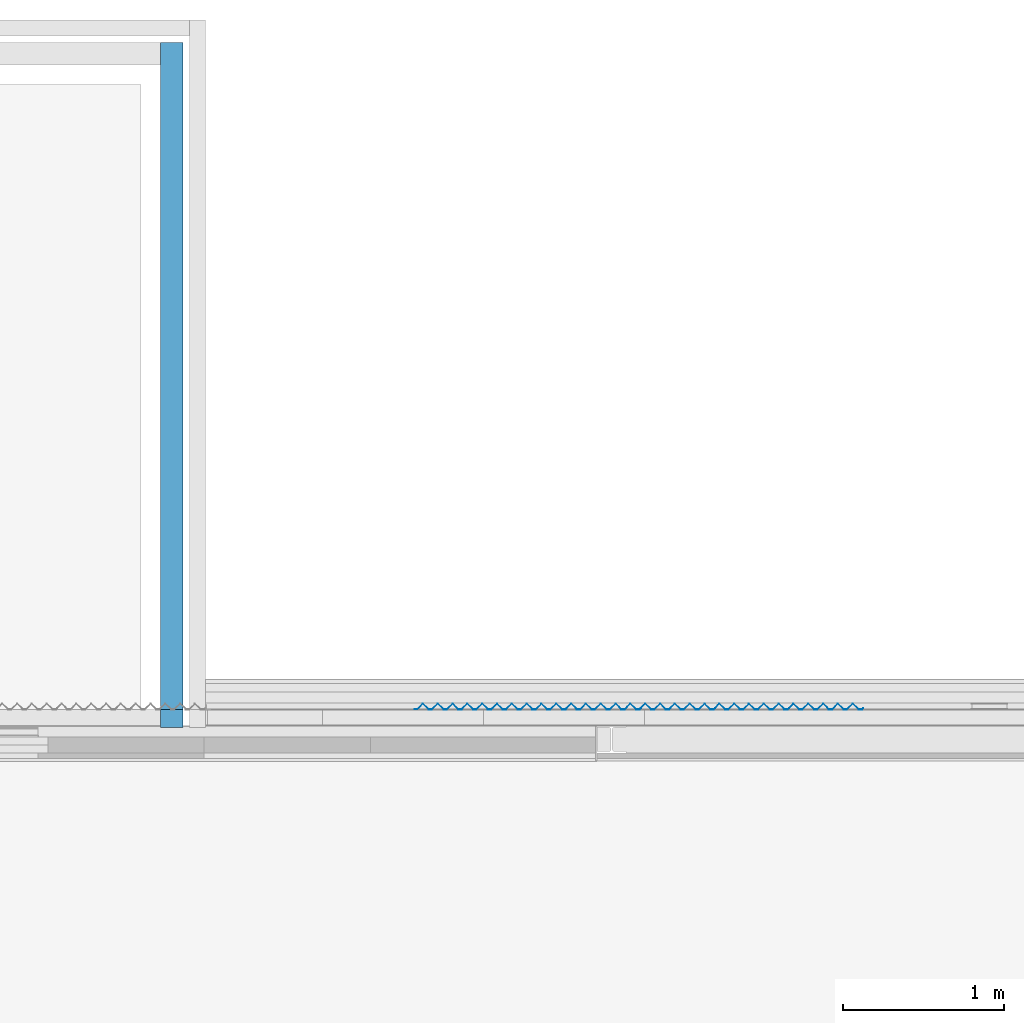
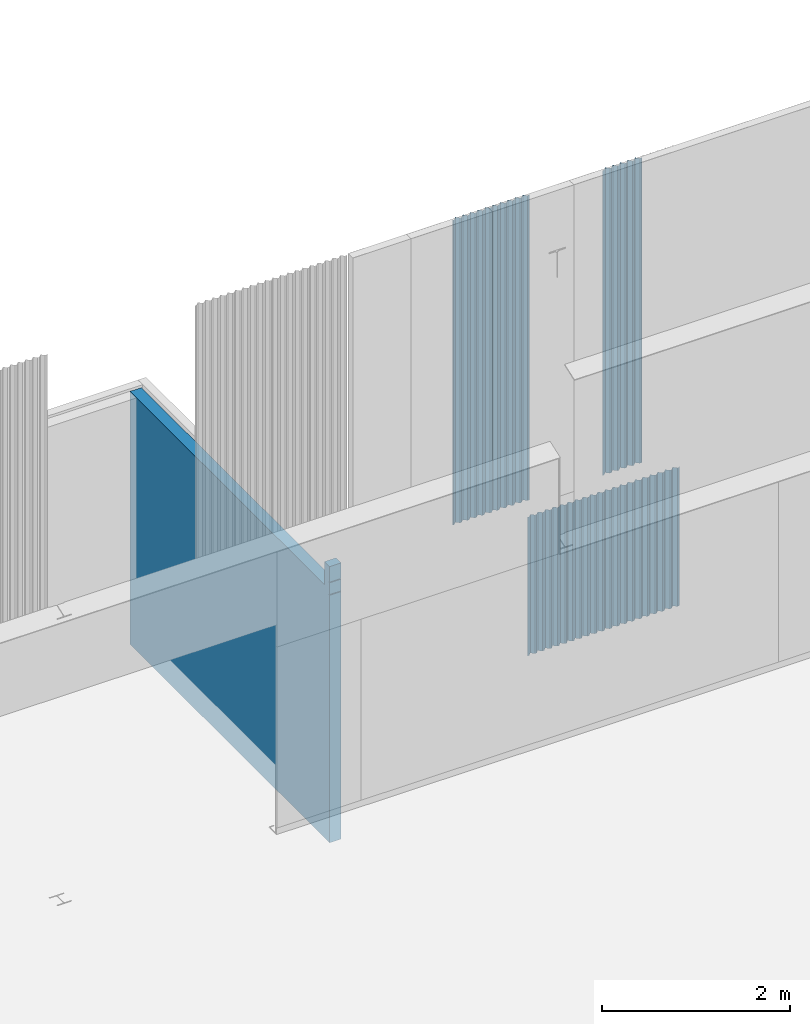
# One storey, part 97 of 338: 8 building element parts, 5 elements without a shape of their own.
"""IFC2X3 building model written with IfcOpenShell, lengths in millimetres."""

from ifc_helpers import new_model, entity, si_unit, converted_unit, derived_unit, money_unit, direction, frame, origin_with_axes, place, context, subcontext, project, spatial, faceted_brep, material, type_object, element, aggregate, save


model = new_model("IFC2X3")

# Units and contexts
model_context = context("Model", 3, precision=0.01, world=origin_with_axes(), true_north=direction((0.0, 1.0)))
plan_context = context("Plan", 3, precision=0.01, world=origin_with_axes(), true_north=direction((0.0, 1.0)))
body_context = subcontext(model_context, "Body", "Model", "MODEL_VIEW")
ifc_project = project(units=[si_unit("LENGTHUNIT", "METRE", prefix="MILLI"), si_unit("AREAUNIT", "SQUARE_METRE"), si_unit("VOLUMEUNIT", "CUBIC_METRE"), converted_unit("PLANEANGLEUNIT", "DEGREE", entity("IfcPlaneAngleMeasure", 0.0174532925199), si_unit("PLANEANGLEUNIT", "RADIAN"), dimensions=[0, 0, 0, 0, 0, 0, 0]), money_unit("EUR"), converted_unit("TIMEUNIT", "Year", entity("IfcTimeMeasure", 31556926.0), si_unit("TIMEUNIT", "SECOND"), dimensions=[0, 0, 1, 0, 0, 0, 0]), si_unit("MASSUNIT", "GRAM", prefix="KILO"), si_unit("THERMODYNAMICTEMPERATUREUNIT", "DEGREE_CELSIUS"), si_unit("LUMINOUSINTENSITYUNIT", "LUMEN"), si_unit("ENERGYUNIT", "JOULE", prefix="MEGA"), derived_unit("THERMALCONDUCTANCEUNIT", [(si_unit("POWERUNIT", "WATT"), 1), (si_unit("LENGTHUNIT", "METRE"), -1), (si_unit("THERMODYNAMICTEMPERATUREUNIT", "KELVIN"), -1)]), derived_unit("SPECIFICHEATCAPACITYUNIT", [(si_unit("ENERGYUNIT", "JOULE"), 1), (si_unit("MASSUNIT", "GRAM", prefix="KILO"), -1), (si_unit("THERMODYNAMICTEMPERATUREUNIT", "KELVIN"), -1)]), derived_unit("MASSDENSITYUNIT", [(si_unit("MASSUNIT", "GRAM", prefix="KILO"), 1), (si_unit("VOLUMEUNIT", "CUBIC_METRE"), -1)])], contexts=[model_context, plan_context])

# Site, building, storey
site_placement = place(None, origin_with_axes())
site = spatial("IfcSite", under=ifc_project, at=site_placement, Name="Fortuinstraat Woensdrecht", CompositionType="ELEMENT")
building_placement = place(site_placement, origin_with_axes())
building = spatial("IfcBuilding", under=site, at=building_placement, Name="IKC Fortuna", CompositionType="ELEMENT")
storey_placement = place(building_placement, origin_with_axes())
storey = spatial("IfcBuildingStorey", under=building, at=storey_placement, Name="00 begane grond", CompositionType="ELEMENT", Elevation=0.0)

# Wall, building element part
wall_type = type_object("IfcWallType", Name="21 MW accent 280", PredefinedType="NOTDEFINED")
wall_placement = place(storey_placement, frame((44333.4279792, 39596.2966283, -485.0), z_axis=(0.0, 0.0, 1.0), x_axis=(-2.24888890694e-07, -1.0, 0.0)))
wall = element("IfcWall", 1, at=wall_placement, inside=storey, type_object=wall_type, Name="21_Wand_Baksteen")
ifc_material_1 = material(Name="ALG - ISOLATIE")
building_element_part_1_placement = place(wall_placement, origin_with_axes())
building_element_part_1 = element("IfcBuildingElementPart", 2, at=building_element_part_1_placement, material=ifc_material_1, Name="ALG - ISOLATIE", context=body_context, shape_type="Brep", body=[
    faceted_brep([(4090.99996852, 140.000899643, 3375.5), (4109.99995952, 140.0, 3375.5), (4109.99995952, 140.0, 3223.5), (4090.99996852, 140.000899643, 3223.5), (4090.99996852, 140.000899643, 3214.0), (4109.99995952, 140.0, 3214.0), (4109.99995952, 140.0, 0.0), (-140.000031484, 140.0, 0.0), (-140.000030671, 139.999967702, 3285.0), (3999.99996852, 140.000899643, 3285.0), (3999.99996852, 140.000899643, 3585.00000254), (4109.99995952, 140.0, 3585.0), (4109.99995952, 140.0, 3385.0), (4090.99996852, 140.000899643, 3385.0), (4091.0, 0.000898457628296, 3375.5), (4109.99995952, 0.0, 3375.5), (4109.99995952, 0.0, 3223.5), (4091.0, 0.000898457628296, 3223.5), (4091.0, 0.000898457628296, 3214.0), (4109.99995952, 0.0, 3214.0), (4109.99995952, 0.0, 0.0), (-140.0, 0.0, 0.0), (-139.999999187, -3.25823776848e-05, 3285.0), (4000.0, 0.000898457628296, 3285.0), (4000.0, 0.000898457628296, 3584.99999807), (4109.99995952, 0.0, 3585.0), (4109.99995952, 0.0, 3385.0), (4091.0, 0.000898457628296, 3385.0)], [[[0, 1, 2, 3, 4, 5, 6, 7, 8, 9, 10, 11, 12, 13]], [[1, 0, 14, 15]], [[1, 15, 16, 2]], [[3, 2, 16, 17]], [[4, 3, 17, 18]], [[5, 4, 18, 19]], [[5, 19, 20, 6]], [[20, 21, 7, 6]], [[22, 8, 7, 21]], [[23, 9, 8, 22]], [[23, 24, 10, 9]], [[11, 10, 24, 25]], [[26, 12, 11, 25]], [[13, 12, 26, 27]], [[0, 13, 27, 14]], [[27, 26, 25, 24, 23, 22, 21, 20, 19, 18, 17, 16, 15, 14]]]),
])
aggregate(wall, [building_element_part_1])

# Proxy, building element parts
building_element_proxy_type = type_object("IfcBuildingElementProxyType", Name="21 Sandwich custom pyramid 946 x 37", PredefinedType="NOTDEFINED")
proxy_1_placement = place(storey_placement, frame((47749.6588228, 35596.2971073, 1000.0), z_axis=(0.0, 0.0, 1.0), x_axis=(1.0, 0.0, 0.0)))
proxy_1 = element("IfcBuildingElementProxy", 3, at=proxy_1_placement, inside=storey, type_object=building_element_proxy_type, Name="41_Generieke bekleding & afwerking buiten_sandwich custom pyramid")
ifc_material_2 = material(Name="Metaal - Aluminium")
building_element_part_2_placement = place(proxy_1_placement, origin_with_axes())
building_element_part_2 = element("IfcBuildingElementPart", 4, at=building_element_part_2_placement, material=ifc_material_2, Name="Metaal - Aluminium", context=body_context, shape_type="Brep", body=[
    faceted_brep([(0.0, 2.39999686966, 0.0), (0.0, 1.20000548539, 0.0), (0.0, 1.20000548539, 1800.85690838), (0.0, 2.39999686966, 1800.85690838), (16.7470988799, 2.39999686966, 0.0), (52.0000026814, 36.6736482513, 0.0), (88.487191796, 1.20000548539, 0.0), (107.51282048, 1.20000548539, 0.0), (143.999995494, 36.6736482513, 0.0), (180.487184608, 1.20000548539, 0.0), (199.512813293, 1.20000548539, 0.0), (236.000002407, 36.6736482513, 0.0), (272.487191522, 1.20000548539, 0.0), (291.512820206, 1.20000548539, 0.0), (327.99999522, 36.6736482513, 0.0), (364.487184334, 1.20000548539, 0.0), (383.512813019, 1.20000548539, 0.0), (420.000002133, 36.6736482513, 0.0), (456.487191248, 1.20000548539, 0.0), (460.000006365, 1.20000548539, 0.0), (477.23428491, 1.20000548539, 0.0), (485.472879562, 9.20975302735, 0.0), (486.309372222, 8.34935896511, 0.0), (477.721464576, 0.0, 0.0), (455.999997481, 0.0, 0.0), (420.000002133, 35.0000001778, 0.0), (384.000006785, 0.0, 0.0), (364.000004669, 0.0, 0.0), (327.99999522, 35.0000001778, 0.0), (291.999999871, 0.0, 0.0), (271.999997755, 0.0, 0.0), (236.000002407, 35.0000001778, 0.0), (199.999992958, 0.0, 0.0), (180.000004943, 0.0, 0.0), (143.999995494, 35.0000001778, 0.0), (108.000000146, 0.0, 0.0), (87.9999980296, 0.0, 0.0), (52.0000026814, 35.0000001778, 0.0), (17.2342926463, 1.20000548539, 0.0), (17.2342926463, 1.20000548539, 1800.85690838), (52.0000026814, 35.0000001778, 1800.85690838), (87.9999980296, 0.0, 1800.85690838), (108.000000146, 0.0, 1800.85690838), (143.999995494, 35.0000001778, 1800.85690838), (180.000004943, 0.0, 1800.85690838), (199.999992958, 0.0, 1800.85690838), (236.000002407, 35.0000001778, 1800.85690838), (271.999997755, 0.0, 1800.85690838), (291.999999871, 0.0, 1800.85690838), (327.99999522, 35.0000001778, 1800.85690838), (364.000004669, 0.0, 1800.85690838), (384.000006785, 0.0, 1800.85690838), (420.000002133, 35.0000001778, 1800.85690838), (455.999997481, 0.0, 1800.85690838), (477.721464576, 0.0, 1800.85690838), (486.309372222, 8.34935896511, 1800.85690838), (485.472879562, 9.20975302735, 1800.85690838), (477.23428491, 1.20000548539, 1800.85690838), (460.000006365, 1.20000548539, 1800.85690838), (456.487191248, 1.20000548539, 1800.85690838), (420.000002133, 36.6736482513, 1800.85690838), (383.512813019, 1.20000548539, 1800.85690838), (364.487184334, 1.20000548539, 1800.85690838), (327.99999522, 36.6736482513, 1800.85690838), (291.512820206, 1.20000548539, 1800.85690838), (272.487191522, 1.20000548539, 1800.85690838), (236.000002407, 36.6736482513, 1800.85690838), (199.512813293, 1.20000548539, 1800.85690838), (180.487184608, 1.20000548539, 1800.85690838), (143.999995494, 36.6736482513, 1800.85690838), (107.51282048, 1.20000548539, 1800.85690838), (88.487191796, 1.20000548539, 1800.85690838), (52.0000026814, 36.6736482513, 1800.85690838), (16.7470988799, 2.39999686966, 1800.85690838)], [[[0, 1, 2, 3]], [[0, 4, 5, 6, 7, 8, 9, 10, 11, 12, 13, 14, 15, 16, 17, 18, 19, 20, 21, 22, 23, 24, 25, 26, 27, 28, 29, 30, 31, 32, 33, 34, 35, 36, 37, 38, 1]], [[1, 38, 39, 2]], [[3, 2, 39, 40, 41, 42, 43, 44, 45, 46, 47, 48, 49, 50, 51, 52, 53, 54, 55, 56, 57, 58, 59, 60, 61, 62, 63, 64, 65, 66, 67, 68, 69, 70, 71, 72, 73]], [[4, 0, 3, 73]], [[5, 4, 73, 72]], [[6, 5, 72, 71]], [[7, 6, 71, 70]], [[8, 7, 70, 69]], [[9, 8, 69, 68]], [[10, 9, 68, 67]], [[11, 10, 67, 66]], [[12, 11, 66, 65]], [[13, 12, 65, 64]], [[14, 13, 64, 63]], [[15, 14, 63, 62]], [[16, 15, 62, 61]], [[17, 16, 61, 60]], [[18, 17, 60, 59]], [[19, 18, 59, 58]], [[20, 19, 58, 57]], [[21, 20, 57, 56]], [[22, 21, 56, 55]], [[23, 22, 55, 54]], [[24, 23, 54, 53]], [[25, 24, 53, 52]], [[26, 25, 52, 51]], [[27, 26, 51, 50]], [[28, 27, 50, 49]], [[29, 28, 49, 48]], [[30, 29, 48, 47]], [[31, 30, 47, 46]], [[32, 31, 46, 45]], [[33, 32, 45, 44]], [[34, 33, 44, 43]], [[35, 34, 43, 42]], [[36, 35, 42, 41]], [[37, 36, 41, 40]], [[38, 37, 40, 39]]]),
])
building_element_part_3_placement = place(proxy_1_placement, origin_with_axes())
building_element_part_3 = element("IfcBuildingElementPart", 5, at=building_element_part_3_placement, material=ifc_material_2, Name="Metaal - Aluminium", context=body_context, shape_type="Brep", body=[
    faceted_brep([(460.0, 1.2, 0.0), (477.234285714, 1.2, 0.0), (477.234285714, 1.2, 1800.85690838), (460.0, 1.2, 1800.85690838), (460.0, 2.4, 0.0), (476.747100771, 2.4, 0.0), (512.0, 36.6736520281, 0.0), (548.487184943, 1.2, 0.0), (567.512815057, 1.2, 0.0), (604.0, 36.6736520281, 0.0), (640.487184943, 1.2, 0.0), (659.512815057, 1.2, 0.0), (696.0, 36.6736520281, 0.0), (732.487184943, 1.2, 0.0), (751.512815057, 1.2, 0.0), (788.0, 36.6736520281, 0.0), (824.487184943, 1.2, 0.0), (843.512815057, 1.2, 0.0), (880.0, 36.6736520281, 0.0), (916.487184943, 1.2, 0.0), (937.234285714, 1.2, 0.0), (945.472884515, 9.20974883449, 0.0), (946.309378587, 8.34935493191, 0.0), (937.721470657, 0.0, 0.0), (916.0, 0.0, 0.0), (880.0, 35.0, 0.0), (844.0, 0.0, 0.0), (824.0, 0.0, 0.0), (788.0, 35.0, 0.0), (752.0, 0.0, 0.0), (732.0, 0.0, 0.0), (696.0, 35.0, 0.0), (660.0, 0.0, 0.0), (640.0, 0.0, 0.0), (604.0, 35.0, 0.0), (568.0, 0.0, 0.0), (548.0, 0.0, 0.0), (512.0, 35.0, 0.0), (485.472879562, 9.20975302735, 0.0), (485.472879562, 9.20975302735, 1800.85690838), (512.0, 35.0, 1800.85690838), (548.0, 0.0, 1800.85690838), (568.0, 0.0, 1800.85690838), (604.0, 35.0, 1800.85690838), (640.0, 0.0, 1800.85690838), (660.0, 0.0, 1800.85690838), (696.0, 35.0, 1800.85690838), (732.0, 0.0, 1800.85690838), (752.0, 0.0, 1800.85690838), (788.0, 35.0, 1800.85690838), (824.0, 0.0, 1800.85690838), (844.0, 0.0, 1800.85690838), (880.0, 35.0, 1800.85690838), (916.0, 0.0, 1800.85690838), (937.721470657, 0.0, 1800.85690838), (946.309378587, 8.34935493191, 1800.85690838), (945.472884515, 9.20974883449, 1800.85690838), (937.234285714, 1.2, 1800.85690838), (916.487184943, 1.2, 1800.85690838), (880.0, 36.6736520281, 1800.85690838), (843.512815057, 1.2, 1800.85690838), (824.487184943, 1.2, 1800.85690838), (788.0, 36.6736520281, 1800.85690838), (751.512815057, 1.2, 1800.85690838), (732.487184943, 1.2, 1800.85690838), (696.0, 36.6736520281, 1800.85690838), (659.512815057, 1.2, 1800.85690838), (640.487184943, 1.2, 1800.85690838), (604.0, 36.6736520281, 1800.85690838), (567.512815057, 1.2, 1800.85690838), (548.487184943, 1.2, 1800.85690838), (512.0, 36.6736520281, 1800.85690838), (476.747100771, 2.4, 1800.85690838), (460.0, 2.4, 1800.85690838)], [[[0, 1, 2, 3]], [[0, 4, 5, 6, 7, 8, 9, 10, 11, 12, 13, 14, 15, 16, 17, 18, 19, 20, 21, 22, 23, 24, 25, 26, 27, 28, 29, 30, 31, 32, 33, 34, 35, 36, 37, 38, 1]], [[1, 38, 39, 2]], [[3, 2, 39, 40, 41, 42, 43, 44, 45, 46, 47, 48, 49, 50, 51, 52, 53, 54, 55, 56, 57, 58, 59, 60, 61, 62, 63, 64, 65, 66, 67, 68, 69, 70, 71, 72, 73]], [[4, 0, 3, 73]], [[5, 4, 73, 72]], [[6, 5, 72, 71]], [[7, 6, 71, 70]], [[8, 7, 70, 69]], [[9, 8, 69, 68]], [[10, 9, 68, 67]], [[11, 10, 67, 66]], [[12, 11, 66, 65]], [[13, 12, 65, 64]], [[14, 13, 64, 63]], [[15, 14, 63, 62]], [[16, 15, 62, 61]], [[17, 16, 61, 60]], [[18, 17, 60, 59]], [[19, 18, 59, 58]], [[20, 19, 58, 57]], [[21, 20, 57, 56]], [[22, 21, 56, 55]], [[23, 22, 55, 54]], [[24, 23, 54, 53]], [[25, 24, 53, 52]], [[26, 25, 52, 51]], [[27, 26, 51, 50]], [[28, 27, 50, 49]], [[29, 28, 49, 48]], [[30, 29, 48, 47]], [[31, 30, 47, 46]], [[32, 31, 46, 45]], [[33, 32, 45, 44]], [[34, 33, 44, 43]], [[35, 34, 43, 42]], [[36, 35, 42, 41]], [[37, 36, 41, 40]], [[38, 37, 40, 39]]]),
])
aggregate(proxy_1, [building_element_part_2, building_element_part_3])

# Proxy, building element part
proxy_2_placement = place(storey_placement, frame((47749.6588228, 35596.2966199, 3019.99999434), z_axis=(0.0, 0.0, 1.0), x_axis=(1.0, 0.0, 0.0)))
proxy_2 = element("IfcBuildingElementProxy", 6, at=proxy_2_placement, inside=storey, type_object=building_element_proxy_type, Name="41_Generieke bekleding & afwerking buiten_sandwich custom pyramid")
building_element_part_4_placement = place(proxy_2_placement, origin_with_axes())
building_element_part_4 = element("IfcBuildingElementPart", 7, at=building_element_part_4_placement, material=ifc_material_2, Name="Metaal - Aluminium", context=body_context, shape_type="Brep", body=[
    faceted_brep([(0.0, 2.39999686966, 0.0), (0.0, 1.20000548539, 0.0), (0.0, 1.20000548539, 3960.0000037), (0.0, 2.39999686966, 3960.0000037), (16.7470988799, 2.39999686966, 0.0), (52.0000026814, 36.6736482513, 0.0), (88.487191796, 1.20000548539, 0.0), (107.51282048, 1.20000548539, 0.0), (143.999995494, 36.6736482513, 0.0), (180.487184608, 1.20000548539, 0.0), (199.512813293, 1.20000548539, 0.0), (236.000002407, 36.6736482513, 0.0), (272.487191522, 1.20000548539, 0.0), (291.512820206, 1.20000548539, 0.0), (327.99999522, 36.6736482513, 0.0), (364.487184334, 1.20000548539, 0.0), (383.512813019, 1.20000548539, 0.0), (420.000002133, 36.6736482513, 0.0), (456.487191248, 1.20000548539, 0.0), (460.000006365, 1.20000548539, 0.0), (477.23428491, 1.20000548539, 0.0), (485.472879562, 9.20975302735, 0.0), (486.309372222, 8.34935896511, 0.0), (477.721464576, 0.0, 0.0), (455.999997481, 0.0, 0.0), (420.000002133, 35.0000001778, 0.0), (384.000006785, 0.0, 0.0), (364.000004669, 0.0, 0.0), (327.99999522, 35.0000001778, 0.0), (291.999999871, 0.0, 0.0), (271.999997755, 0.0, 0.0), (236.000002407, 35.0000001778, 0.0), (199.999992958, 0.0, 0.0), (180.000004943, 0.0, 0.0), (143.999995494, 35.0000001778, 0.0), (108.000000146, 0.0, 0.0), (87.9999980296, 0.0, 0.0), (52.0000026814, 35.0000001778, 0.0), (17.2342926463, 1.20000548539, 0.0), (17.2342926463, 1.20000548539, 3960.0000037), (52.0000026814, 35.0000001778, 3960.0000037), (87.9999980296, 0.0, 3960.0000037), (108.000000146, 0.0, 3960.0000037), (143.999995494, 35.0000001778, 3960.0000037), (180.000004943, 0.0, 3960.0000037), (199.999992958, 0.0, 3960.0000037), (236.000002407, 35.0000001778, 3960.0000037), (271.999997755, 0.0, 3960.0000037), (291.999999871, 0.0, 3960.0000037), (327.99999522, 35.0000001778, 3960.0000037), (364.000004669, 0.0, 3960.0000037), (384.000006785, 0.0, 3960.0000037), (420.000002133, 35.0000001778, 3960.0000037), (455.999997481, 0.0, 3960.0000037), (477.721464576, 0.0, 3960.0000037), (486.309372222, 8.34935896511, 3960.0000037), (485.472879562, 9.20975302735, 3960.0000037), (477.23428491, 1.20000548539, 3960.0000037), (460.000006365, 1.20000548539, 3960.0000037), (456.487191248, 1.20000548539, 3960.0000037), (420.000002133, 36.6736482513, 3960.0000037), (383.512813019, 1.20000548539, 3960.0000037), (364.487184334, 1.20000548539, 3960.0000037), (327.99999522, 36.6736482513, 3960.0000037), (291.512820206, 1.20000548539, 3960.0000037), (272.487191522, 1.20000548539, 3960.0000037), (236.000002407, 36.6736482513, 3960.0000037), (199.512813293, 1.20000548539, 3960.0000037), (180.487184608, 1.20000548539, 3960.0000037), (143.999995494, 36.6736482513, 3960.0000037), (107.51282048, 1.20000548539, 3960.0000037), (88.487191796, 1.20000548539, 3960.0000037), (52.0000026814, 36.6736482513, 3960.0000037), (16.7470988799, 2.39999686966, 3960.0000037)], [[[0, 1, 2, 3]], [[0, 4, 5, 6, 7, 8, 9, 10, 11, 12, 13, 14, 15, 16, 17, 18, 19, 20, 21, 22, 23, 24, 25, 26, 27, 28, 29, 30, 31, 32, 33, 34, 35, 36, 37, 38, 1]], [[1, 38, 39, 2]], [[3, 2, 39, 40, 41, 42, 43, 44, 45, 46, 47, 48, 49, 50, 51, 52, 53, 54, 55, 56, 57, 58, 59, 60, 61, 62, 63, 64, 65, 66, 67, 68, 69, 70, 71, 72, 73]], [[4, 0, 3, 73]], [[5, 4, 73, 72]], [[6, 5, 72, 71]], [[7, 6, 71, 70]], [[8, 7, 70, 69]], [[9, 8, 69, 68]], [[10, 9, 68, 67]], [[11, 10, 67, 66]], [[12, 11, 66, 65]], [[13, 12, 65, 64]], [[14, 13, 64, 63]], [[15, 14, 63, 62]], [[16, 15, 62, 61]], [[17, 16, 61, 60]], [[18, 17, 60, 59]], [[19, 18, 59, 58]], [[20, 19, 58, 57]], [[21, 20, 57, 56]], [[22, 21, 56, 55]], [[23, 22, 55, 54]], [[24, 23, 54, 53]], [[25, 24, 53, 52]], [[26, 25, 52, 51]], [[27, 26, 51, 50]], [[28, 27, 50, 49]], [[29, 28, 49, 48]], [[30, 29, 48, 47]], [[31, 30, 47, 46]], [[32, 31, 46, 45]], [[33, 32, 45, 44]], [[34, 33, 44, 43]], [[35, 34, 43, 42]], [[36, 35, 42, 41]], [[37, 36, 41, 40]], [[38, 37, 40, 39]]]),
])
aggregate(proxy_2, [building_element_part_4])

# Proxy, building element parts
proxy_3_placement = place(storey_placement, frame((46829.6588228, 35596.2971073, 1000.0), z_axis=(0.0, 0.0, 1.0), x_axis=(1.0, 0.0, 0.0)))
proxy_3 = element("IfcBuildingElementProxy", 8, at=proxy_3_placement, inside=storey, type_object=building_element_proxy_type, Name="41_Generieke bekleding & afwerking buiten_sandwich custom pyramid")
building_element_part_5_placement = place(proxy_3_placement, origin_with_axes())
building_element_part_5 = element("IfcBuildingElementPart", 9, at=building_element_part_5_placement, material=ifc_material_2, Name="Metaal - Aluminium", context=body_context, shape_type="Brep", body=[
    faceted_brep([(0.0, 2.39999686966, 0.0), (0.0, 1.20000548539, 0.0), (0.0, 1.20000548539, 1800.85690838), (0.0, 2.39999686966, 1800.85690838), (16.7470988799, 2.39999686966, 0.0), (52.0000026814, 36.6736482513, 0.0), (88.487191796, 1.20000548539, 0.0), (107.51282048, 1.20000548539, 0.0), (143.999995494, 36.6736482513, 0.0), (180.487184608, 1.20000548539, 0.0), (199.512813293, 1.20000548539, 0.0), (236.000002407, 36.6736482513, 0.0), (272.487191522, 1.20000548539, 0.0), (291.512820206, 1.20000548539, 0.0), (327.99999522, 36.6736482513, 0.0), (364.487184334, 1.20000548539, 0.0), (383.512813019, 1.20000548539, 0.0), (420.000002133, 36.6736482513, 0.0), (456.487191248, 1.20000548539, 0.0), (460.000006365, 1.20000548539, 0.0), (477.23428491, 1.20000548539, 0.0), (485.472879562, 9.20975302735, 0.0), (486.309372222, 8.34935896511, 0.0), (477.721464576, 0.0, 0.0), (455.999997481, 0.0, 0.0), (420.000002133, 35.0000001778, 0.0), (384.000006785, 0.0, 0.0), (364.000004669, 0.0, 0.0), (327.99999522, 35.0000001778, 0.0), (291.999999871, 0.0, 0.0), (271.999997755, 0.0, 0.0), (236.000002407, 35.0000001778, 0.0), (199.999992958, 0.0, 0.0), (180.000004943, 0.0, 0.0), (143.999995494, 35.0000001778, 0.0), (108.000000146, 0.0, 0.0), (87.9999980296, 0.0, 0.0), (52.0000026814, 35.0000001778, 0.0), (17.2342926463, 1.20000548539, 0.0), (17.2342926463, 1.20000548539, 1800.85690838), (52.0000026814, 35.0000001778, 1800.85690838), (87.9999980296, 0.0, 1800.85690838), (108.000000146, 0.0, 1800.85690838), (143.999995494, 35.0000001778, 1800.85690838), (180.000004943, 0.0, 1800.85690838), (199.999992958, 0.0, 1800.85690838), (236.000002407, 35.0000001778, 1800.85690838), (271.999997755, 0.0, 1800.85690838), (291.999999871, 0.0, 1800.85690838), (327.99999522, 35.0000001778, 1800.85690838), (364.000004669, 0.0, 1800.85690838), (384.000006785, 0.0, 1800.85690838), (420.000002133, 35.0000001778, 1800.85690838), (455.999997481, 0.0, 1800.85690838), (477.721464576, 0.0, 1800.85690838), (486.309372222, 8.34935896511, 1800.85690838), (485.472879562, 9.20975302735, 1800.85690838), (477.23428491, 1.20000548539, 1800.85690838), (460.000006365, 1.20000548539, 1800.85690838), (456.487191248, 1.20000548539, 1800.85690838), (420.000002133, 36.6736482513, 1800.85690838), (383.512813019, 1.20000548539, 1800.85690838), (364.487184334, 1.20000548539, 1800.85690838), (327.99999522, 36.6736482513, 1800.85690838), (291.512820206, 1.20000548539, 1800.85690838), (272.487191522, 1.20000548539, 1800.85690838), (236.000002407, 36.6736482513, 1800.85690838), (199.512813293, 1.20000548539, 1800.85690838), (180.487184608, 1.20000548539, 1800.85690838), (143.999995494, 36.6736482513, 1800.85690838), (107.51282048, 1.20000548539, 1800.85690838), (88.487191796, 1.20000548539, 1800.85690838), (52.0000026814, 36.6736482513, 1800.85690838), (16.7470988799, 2.39999686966, 1800.85690838)], [[[0, 1, 2, 3]], [[0, 4, 5, 6, 7, 8, 9, 10, 11, 12, 13, 14, 15, 16, 17, 18, 19, 20, 21, 22, 23, 24, 25, 26, 27, 28, 29, 30, 31, 32, 33, 34, 35, 36, 37, 38, 1]], [[1, 38, 39, 2]], [[3, 2, 39, 40, 41, 42, 43, 44, 45, 46, 47, 48, 49, 50, 51, 52, 53, 54, 55, 56, 57, 58, 59, 60, 61, 62, 63, 64, 65, 66, 67, 68, 69, 70, 71, 72, 73]], [[4, 0, 3, 73]], [[5, 4, 73, 72]], [[6, 5, 72, 71]], [[7, 6, 71, 70]], [[8, 7, 70, 69]], [[9, 8, 69, 68]], [[10, 9, 68, 67]], [[11, 10, 67, 66]], [[12, 11, 66, 65]], [[13, 12, 65, 64]], [[14, 13, 64, 63]], [[15, 14, 63, 62]], [[16, 15, 62, 61]], [[17, 16, 61, 60]], [[18, 17, 60, 59]], [[19, 18, 59, 58]], [[20, 19, 58, 57]], [[21, 20, 57, 56]], [[22, 21, 56, 55]], [[23, 22, 55, 54]], [[24, 23, 54, 53]], [[25, 24, 53, 52]], [[26, 25, 52, 51]], [[27, 26, 51, 50]], [[28, 27, 50, 49]], [[29, 28, 49, 48]], [[30, 29, 48, 47]], [[31, 30, 47, 46]], [[32, 31, 46, 45]], [[33, 32, 45, 44]], [[34, 33, 44, 43]], [[35, 34, 43, 42]], [[36, 35, 42, 41]], [[37, 36, 41, 40]], [[38, 37, 40, 39]]]),
])
building_element_part_6_placement = place(proxy_3_placement, origin_with_axes())
building_element_part_6 = element("IfcBuildingElementPart", 10, at=building_element_part_6_placement, material=ifc_material_2, Name="Metaal - Aluminium", context=body_context, shape_type="Brep", body=[
    faceted_brep([(460.0, 1.2, 0.0), (477.234285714, 1.2, 0.0), (477.234285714, 1.2, 1800.85690838), (460.0, 1.2, 1800.85690838), (460.0, 2.4, 0.0), (476.747100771, 2.4, 0.0), (512.0, 36.6736520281, 0.0), (548.487184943, 1.2, 0.0), (567.512815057, 1.2, 0.0), (604.0, 36.6736520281, 0.0), (640.487184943, 1.2, 0.0), (659.512815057, 1.2, 0.0), (696.0, 36.6736520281, 0.0), (732.487184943, 1.2, 0.0), (751.512815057, 1.2, 0.0), (788.0, 36.6736520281, 0.0), (824.487184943, 1.2, 0.0), (843.512815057, 1.2, 0.0), (880.0, 36.6736520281, 0.0), (916.487184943, 1.2, 0.0), (937.234285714, 1.2, 0.0), (945.472884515, 9.20974883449, 0.0), (946.309378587, 8.34935493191, 0.0), (937.721470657, 0.0, 0.0), (916.0, 0.0, 0.0), (880.0, 35.0, 0.0), (844.0, 0.0, 0.0), (824.0, 0.0, 0.0), (788.0, 35.0, 0.0), (752.0, 0.0, 0.0), (732.0, 0.0, 0.0), (696.0, 35.0, 0.0), (660.0, 0.0, 0.0), (640.0, 0.0, 0.0), (604.0, 35.0, 0.0), (568.0, 0.0, 0.0), (548.0, 0.0, 0.0), (512.0, 35.0, 0.0), (485.472879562, 9.20975302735, 0.0), (485.472879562, 9.20975302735, 1800.85690838), (512.0, 35.0, 1800.85690838), (548.0, 0.0, 1800.85690838), (568.0, 0.0, 1800.85690838), (604.0, 35.0, 1800.85690838), (640.0, 0.0, 1800.85690838), (660.0, 0.0, 1800.85690838), (696.0, 35.0, 1800.85690838), (732.0, 0.0, 1800.85690838), (752.0, 0.0, 1800.85690838), (788.0, 35.0, 1800.85690838), (824.0, 0.0, 1800.85690838), (844.0, 0.0, 1800.85690838), (880.0, 35.0, 1800.85690838), (916.0, 0.0, 1800.85690838), (937.721470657, 0.0, 1800.85690838), (946.309378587, 8.34935493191, 1800.85690838), (945.472884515, 9.20974883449, 1800.85690838), (937.234285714, 1.2, 1800.85690838), (916.487184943, 1.2, 1800.85690838), (880.0, 36.6736520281, 1800.85690838), (843.512815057, 1.2, 1800.85690838), (824.487184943, 1.2, 1800.85690838), (788.0, 36.6736520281, 1800.85690838), (751.512815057, 1.2, 1800.85690838), (732.487184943, 1.2, 1800.85690838), (696.0, 36.6736520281, 1800.85690838), (659.512815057, 1.2, 1800.85690838), (640.487184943, 1.2, 1800.85690838), (604.0, 36.6736520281, 1800.85690838), (567.512815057, 1.2, 1800.85690838), (548.487184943, 1.2, 1800.85690838), (512.0, 36.6736520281, 1800.85690838), (476.747100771, 2.4, 1800.85690838), (460.0, 2.4, 1800.85690838)], [[[0, 1, 2, 3]], [[0, 4, 5, 6, 7, 8, 9, 10, 11, 12, 13, 14, 15, 16, 17, 18, 19, 20, 21, 22, 23, 24, 25, 26, 27, 28, 29, 30, 31, 32, 33, 34, 35, 36, 37, 38, 1]], [[1, 38, 39, 2]], [[3, 2, 39, 40, 41, 42, 43, 44, 45, 46, 47, 48, 49, 50, 51, 52, 53, 54, 55, 56, 57, 58, 59, 60, 61, 62, 63, 64, 65, 66, 67, 68, 69, 70, 71, 72, 73]], [[4, 0, 3, 73]], [[5, 4, 73, 72]], [[6, 5, 72, 71]], [[7, 6, 71, 70]], [[8, 7, 70, 69]], [[9, 8, 69, 68]], [[10, 9, 68, 67]], [[11, 10, 67, 66]], [[12, 11, 66, 65]], [[13, 12, 65, 64]], [[14, 13, 64, 63]], [[15, 14, 63, 62]], [[16, 15, 62, 61]], [[17, 16, 61, 60]], [[18, 17, 60, 59]], [[19, 18, 59, 58]], [[20, 19, 58, 57]], [[21, 20, 57, 56]], [[22, 21, 56, 55]], [[23, 22, 55, 54]], [[24, 23, 54, 53]], [[25, 24, 53, 52]], [[26, 25, 52, 51]], [[27, 26, 51, 50]], [[28, 27, 50, 49]], [[29, 28, 49, 48]], [[30, 29, 48, 47]], [[31, 30, 47, 46]], [[32, 31, 46, 45]], [[33, 32, 45, 44]], [[34, 33, 44, 43]], [[35, 34, 43, 42]], [[36, 35, 42, 41]], [[37, 36, 41, 40]], [[38, 37, 40, 39]]]),
])
aggregate(proxy_3, [building_element_part_5, building_element_part_6])

proxy_4_placement = place(storey_placement, frame((45909.6588228, 35596.2966199, 3019.99999434), z_axis=(0.0, 0.0, 1.0), x_axis=(1.0, 0.0, 0.0)))
proxy_4 = element("IfcBuildingElementProxy", 11, at=proxy_4_placement, inside=storey, type_object=building_element_proxy_type, Name="41_Generieke bekleding & afwerking buiten_sandwich custom pyramid")
building_element_part_7_placement = place(proxy_4_placement, origin_with_axes())
building_element_part_7 = element("IfcBuildingElementPart", 12, at=building_element_part_7_placement, material=ifc_material_2, Name="Metaal - Aluminium", context=body_context, shape_type="Brep", body=[
    faceted_brep([(0.0, 2.39999686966, 0.0), (0.0, 1.20000548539, 0.0), (0.0, 1.20000548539, 3960.0000037), (0.0, 2.39999686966, 3960.0000037), (16.7470988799, 2.39999686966, 0.0), (52.0000026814, 36.6736482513, 0.0), (88.487191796, 1.20000548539, 0.0), (107.51282048, 1.20000548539, 0.0), (143.999995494, 36.6736482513, 0.0), (180.487184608, 1.20000548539, 0.0), (199.512813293, 1.20000548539, 0.0), (236.000002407, 36.6736482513, 0.0), (272.487191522, 1.20000548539, 0.0), (291.512820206, 1.20000548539, 0.0), (327.99999522, 36.6736482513, 0.0), (364.487184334, 1.20000548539, 0.0), (383.512813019, 1.20000548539, 0.0), (420.000002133, 36.6736482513, 0.0), (456.487191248, 1.20000548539, 0.0), (460.000006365, 1.20000548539, 0.0), (477.23428491, 1.20000548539, 0.0), (485.472879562, 9.20975302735, 0.0), (486.309372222, 8.34935896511, 0.0), (477.721464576, 0.0, 0.0), (455.999997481, 0.0, 0.0), (420.000002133, 35.0000001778, 0.0), (384.000006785, 0.0, 0.0), (364.000004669, 0.0, 0.0), (327.99999522, 35.0000001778, 0.0), (291.999999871, 0.0, 0.0), (271.999997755, 0.0, 0.0), (236.000002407, 35.0000001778, 0.0), (199.999992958, 0.0, 0.0), (180.000004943, 0.0, 0.0), (143.999995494, 35.0000001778, 0.0), (108.000000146, 0.0, 0.0), (87.9999980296, 0.0, 0.0), (52.0000026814, 35.0000001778, 0.0), (17.2342926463, 1.20000548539, 0.0), (17.2342926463, 1.20000548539, 3960.0000037), (52.0000026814, 35.0000001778, 3960.0000037), (87.9999980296, 0.0, 3960.0000037), (108.000000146, 0.0, 3960.0000037), (143.999995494, 35.0000001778, 3960.0000037), (180.000004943, 0.0, 3960.0000037), (199.999992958, 0.0, 3960.0000037), (236.000002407, 35.0000001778, 3960.0000037), (271.999997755, 0.0, 3960.0000037), (291.999999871, 0.0, 3960.0000037), (327.99999522, 35.0000001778, 3960.0000037), (364.000004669, 0.0, 3960.0000037), (384.000006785, 0.0, 3960.0000037), (420.000002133, 35.0000001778, 3960.0000037), (455.999997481, 0.0, 3960.0000037), (477.721464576, 0.0, 3960.0000037), (486.309372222, 8.34935896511, 3960.0000037), (485.472879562, 9.20975302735, 3960.0000037), (477.23428491, 1.20000548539, 3960.0000037), (460.000006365, 1.20000548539, 3960.0000037), (456.487191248, 1.20000548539, 3960.0000037), (420.000002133, 36.6736482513, 3960.0000037), (383.512813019, 1.20000548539, 3960.0000037), (364.487184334, 1.20000548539, 3960.0000037), (327.99999522, 36.6736482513, 3960.0000037), (291.512820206, 1.20000548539, 3960.0000037), (272.487191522, 1.20000548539, 3960.0000037), (236.000002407, 36.6736482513, 3960.0000037), (199.512813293, 1.20000548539, 3960.0000037), (180.487184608, 1.20000548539, 3960.0000037), (143.999995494, 36.6736482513, 3960.0000037), (107.51282048, 1.20000548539, 3960.0000037), (88.487191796, 1.20000548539, 3960.0000037), (52.0000026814, 36.6736482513, 3960.0000037), (16.7470988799, 2.39999686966, 3960.0000037)], [[[0, 1, 2, 3]], [[0, 4, 5, 6, 7, 8, 9, 10, 11, 12, 13, 14, 15, 16, 17, 18, 19, 20, 21, 22, 23, 24, 25, 26, 27, 28, 29, 30, 31, 32, 33, 34, 35, 36, 37, 38, 1]], [[1, 38, 39, 2]], [[3, 2, 39, 40, 41, 42, 43, 44, 45, 46, 47, 48, 49, 50, 51, 52, 53, 54, 55, 56, 57, 58, 59, 60, 61, 62, 63, 64, 65, 66, 67, 68, 69, 70, 71, 72, 73]], [[4, 0, 3, 73]], [[5, 4, 73, 72]], [[6, 5, 72, 71]], [[7, 6, 71, 70]], [[8, 7, 70, 69]], [[9, 8, 69, 68]], [[10, 9, 68, 67]], [[11, 10, 67, 66]], [[12, 11, 66, 65]], [[13, 12, 65, 64]], [[14, 13, 64, 63]], [[15, 14, 63, 62]], [[16, 15, 62, 61]], [[17, 16, 61, 60]], [[18, 17, 60, 59]], [[19, 18, 59, 58]], [[20, 19, 58, 57]], [[21, 20, 57, 56]], [[22, 21, 56, 55]], [[23, 22, 55, 54]], [[24, 23, 54, 53]], [[25, 24, 53, 52]], [[26, 25, 52, 51]], [[27, 26, 51, 50]], [[28, 27, 50, 49]], [[29, 28, 49, 48]], [[30, 29, 48, 47]], [[31, 30, 47, 46]], [[32, 31, 46, 45]], [[33, 32, 45, 44]], [[34, 33, 44, 43]], [[35, 34, 43, 42]], [[36, 35, 42, 41]], [[37, 36, 41, 40]], [[38, 37, 40, 39]]]),
])
building_element_part_8_placement = place(proxy_4_placement, origin_with_axes())
building_element_part_8 = element("IfcBuildingElementPart", 13, at=building_element_part_8_placement, material=ifc_material_2, Name="Metaal - Aluminium", context=body_context, shape_type="Brep", body=[
    faceted_brep([(460.0, 1.2, 0.0), (477.234285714, 1.2, 0.0), (477.234285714, 1.2, 3960.0000037), (460.0, 1.2, 3960.0000037), (460.0, 2.4, 0.0), (476.747100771, 2.4, 0.0), (512.0, 36.6736520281, 0.0), (548.487184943, 1.2, 0.0), (567.512815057, 1.2, 0.0), (604.0, 36.6736520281, 0.0), (640.487184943, 1.2, 0.0), (659.512815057, 1.2, 0.0), (696.0, 36.6736520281, 0.0), (732.487184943, 1.2, 0.0), (751.512815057, 1.2, 0.0), (788.0, 36.6736520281, 0.0), (824.487184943, 1.2, 0.0), (843.512815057, 1.2, 0.0), (880.0, 36.6736520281, 0.0), (916.487184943, 1.2, 0.0), (937.234285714, 1.2, 0.0), (945.472884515, 9.20974883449, 0.0), (946.309378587, 8.34935493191, 0.0), (937.721470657, 0.0, 0.0), (916.0, 0.0, 0.0), (880.0, 35.0, 0.0), (844.0, 0.0, 0.0), (824.0, 0.0, 0.0), (788.0, 35.0, 0.0), (752.0, 0.0, 0.0), (732.0, 0.0, 0.0), (696.0, 35.0, 0.0), (660.0, 0.0, 0.0), (640.0, 0.0, 0.0), (604.0, 35.0, 0.0), (568.0, 0.0, 0.0), (548.0, 0.0, 0.0), (512.0, 35.0, 0.0), (485.472879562, 9.20975302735, 0.0), (485.472879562, 9.20975302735, 3960.0000037), (512.0, 35.0, 3960.0000037), (548.0, 0.0, 3960.0000037), (568.0, 0.0, 3960.0000037), (604.0, 35.0, 3960.0000037), (640.0, 0.0, 3960.0000037), (660.0, 0.0, 3960.0000037), (696.0, 35.0, 3960.0000037), (732.0, 0.0, 3960.0000037), (752.0, 0.0, 3960.0000037), (788.0, 35.0, 3960.0000037), (824.0, 0.0, 3960.0000037), (844.0, 0.0, 3960.0000037), (880.0, 35.0, 3960.0000037), (916.0, 0.0, 3960.0000037), (937.721470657, 0.0, 3960.0000037), (946.309378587, 8.34935493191, 3960.0000037), (945.472884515, 9.20974883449, 3960.0000037), (937.234285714, 1.2, 3960.0000037), (916.487184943, 1.2, 3960.0000037), (880.0, 36.6736520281, 3960.0000037), (843.512815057, 1.2, 3960.0000037), (824.487184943, 1.2, 3960.0000037), (788.0, 36.6736520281, 3960.0000037), (751.512815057, 1.2, 3960.0000037), (732.487184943, 1.2, 3960.0000037), (696.0, 36.6736520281, 3960.0000037), (659.512815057, 1.2, 3960.0000037), (640.487184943, 1.2, 3960.0000037), (604.0, 36.6736520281, 3960.0000037), (567.512815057, 1.2, 3960.0000037), (548.487184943, 1.2, 3960.0000037), (512.0, 36.6736520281, 3960.0000037), (476.747100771, 2.4, 3960.0000037), (460.0, 2.4, 3960.0000037)], [[[0, 1, 2, 3]], [[0, 4, 5, 6, 7, 8, 9, 10, 11, 12, 13, 14, 15, 16, 17, 18, 19, 20, 21, 22, 23, 24, 25, 26, 27, 28, 29, 30, 31, 32, 33, 34, 35, 36, 37, 38, 1]], [[1, 38, 39, 2]], [[3, 2, 39, 40, 41, 42, 43, 44, 45, 46, 47, 48, 49, 50, 51, 52, 53, 54, 55, 56, 57, 58, 59, 60, 61, 62, 63, 64, 65, 66, 67, 68, 69, 70, 71, 72, 73]], [[4, 0, 3, 73]], [[5, 4, 73, 72]], [[6, 5, 72, 71]], [[7, 6, 71, 70]], [[8, 7, 70, 69]], [[9, 8, 69, 68]], [[10, 9, 68, 67]], [[11, 10, 67, 66]], [[12, 11, 66, 65]], [[13, 12, 65, 64]], [[14, 13, 64, 63]], [[15, 14, 63, 62]], [[16, 15, 62, 61]], [[17, 16, 61, 60]], [[18, 17, 60, 59]], [[19, 18, 59, 58]], [[20, 19, 58, 57]], [[21, 20, 57, 56]], [[22, 21, 56, 55]], [[23, 22, 55, 54]], [[24, 23, 54, 53]], [[25, 24, 53, 52]], [[26, 25, 52, 51]], [[27, 26, 51, 50]], [[28, 27, 50, 49]], [[29, 28, 49, 48]], [[30, 29, 48, 47]], [[31, 30, 47, 46]], [[32, 31, 46, 45]], [[33, 32, 45, 44]], [[34, 33, 44, 43]], [[35, 34, 43, 42]], [[36, 35, 42, 41]], [[37, 36, 41, 40]], [[38, 37, 40, 39]]]),
])
aggregate(proxy_4, [building_element_part_7, building_element_part_8])

save(model, "model.ifc")
